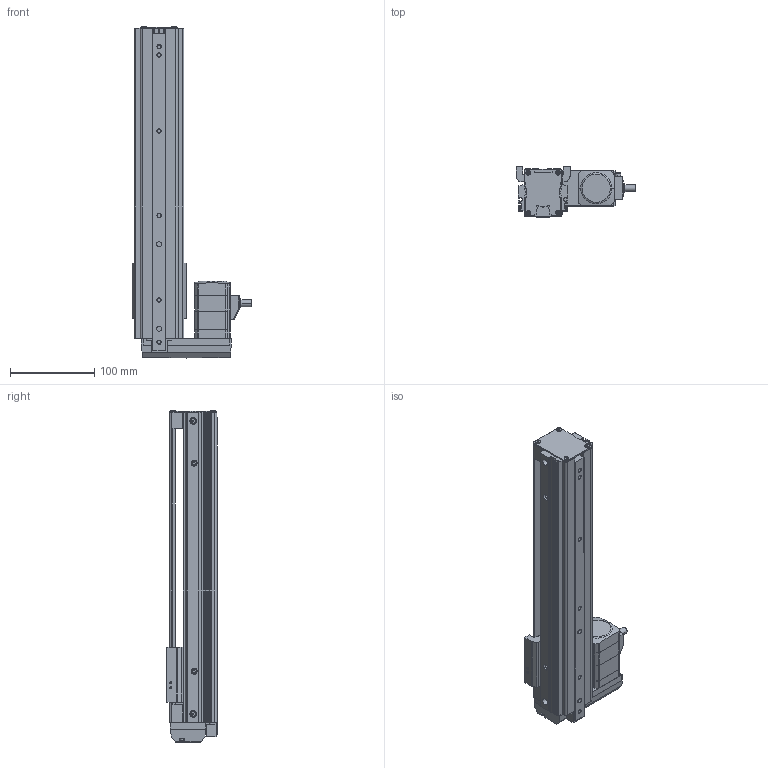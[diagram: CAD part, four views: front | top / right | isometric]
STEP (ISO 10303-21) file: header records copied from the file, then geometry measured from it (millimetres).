
FILE_DESCRIPTION (( 'STEP AP203' ), '1' );
FILE_NAME ('EASM4LXD025ARAK.step', '2013-10-10T04:47:28', ( 'om' ), ( 'Hewlett-Packard Company' ), 'SwSTEP 2.0', 'SolidWorks 2011', '' );
FILE_SCHEMA (( 'CONFIG_CONTROL_DESIGN' ));
Length unit declared in the file: millimetre
Products named in the file (4): EASM4LXD025ARAK_Table; EASM4LXD025ARAK_BASE; EASM4LXD025ARAK_Motor; EASM4LXD025ARAK
Assembly tree (3 placements, depth 2):
  EASM4LXD025ARAK
    EASM4LXD025ARAK_Table
    EASM4LXD025ARAK_Motor
    EASM4LXD025ARAK_BASE
Bounding box: 142 x 60 x 393.1 mm (x, y, z)
Volume: 768669.2 mm3; surface area: 239304.8 mm2
Topology: 3 solids, 13 shells, 974 faces, 2524 edges, 1631 vertices
Faces by surface type: plane 545, cylinder 345, cone 64, torus 16, bspline 4
Entity records: 30258 total; most frequent: CARTESIAN_POINT 5391, DIRECTION 5195, ORIENTED_EDGE 5000, EDGE_CURVE 2500, AXIS2_PLACEMENT_3D 1751, VECTOR 1693, LINE 1693, VERTEX_POINT 1631
